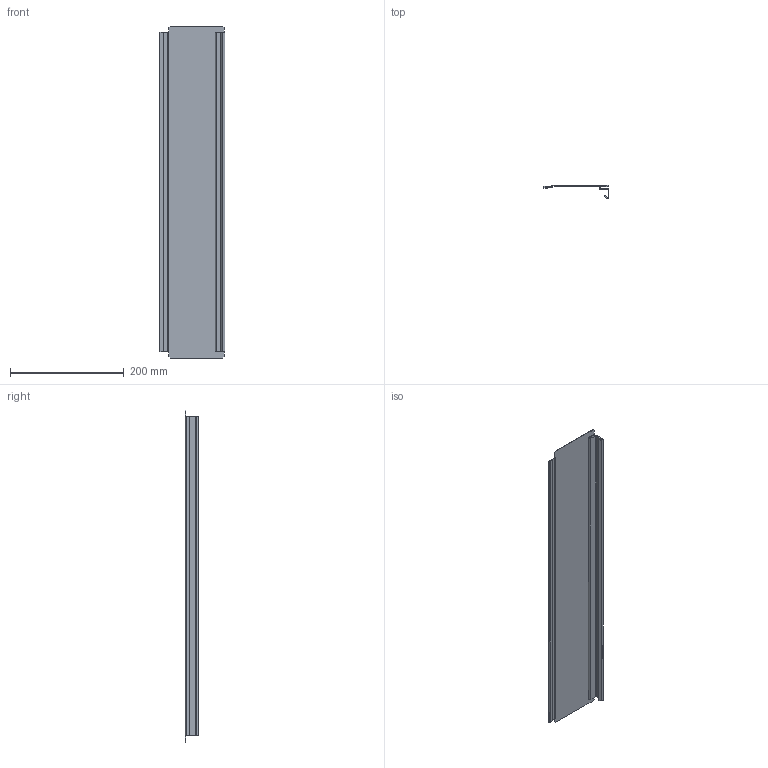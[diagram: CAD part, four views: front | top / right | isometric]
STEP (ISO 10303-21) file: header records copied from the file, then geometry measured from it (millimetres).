
FILE_DESCRIPTION (( 'STEP AP203' ), '1' );
FILE_NAME ('WTTG-080100A.STEP', '2019-07-04T15:45:22', ( '' ), ( '' ), 'SwSTEP 2.0', 'SolidWorks 2019', '' );
FILE_SCHEMA (( 'CONFIG_CONTROL_DESIGN' ));
Length unit declared in the file: millimetre
Products named in the file (1): WTTG-080100A
Bounding box: 115 x 23.49 x 583.5 mm (x, y, z)
Volume: 104000.7 mm3; surface area: 209525.4 mm2
Topology: 1 solids, 1 shells, 70 faces, 148 edges, 80 vertices
Faces by surface type: plane 56, cylinder 14
Entity records: 1869 total; most frequent: DIRECTION 318, CARTESIAN_POINT 299, ORIENTED_EDGE 296, EDGE_CURVE 148, LINE 120, VECTOR 120, AXIS2_PLACEMENT_3D 99, VERTEX_POINT 80
